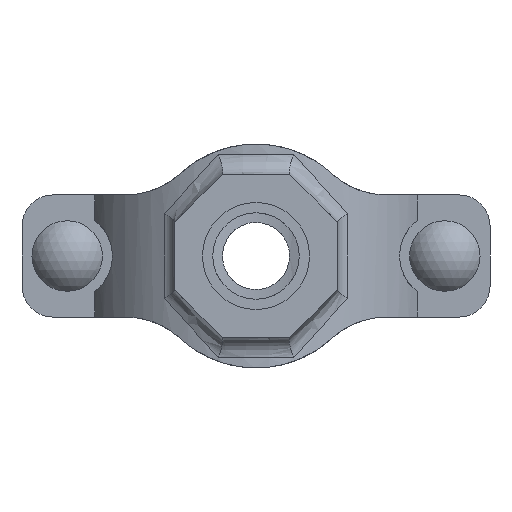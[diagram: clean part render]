
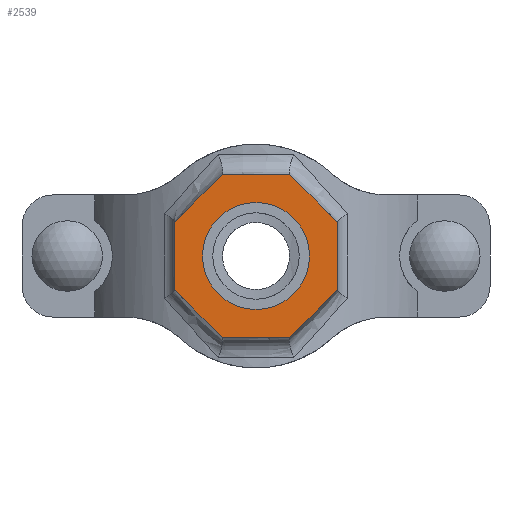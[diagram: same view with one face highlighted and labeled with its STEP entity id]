
A CAD part, front view. The second image highlights one B-rep face of the part: STEP entity #2539.
In plain terms, the highlighted planar face has unit normal (0, -1, 0) as drawn and (0, 1, 0) by its records, which use the part's own axes.
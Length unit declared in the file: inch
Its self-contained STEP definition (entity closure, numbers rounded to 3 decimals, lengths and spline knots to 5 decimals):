
#186=FACE_BOUND('',#459,.T.);
#307=FACE_OUTER_BOUND('',#458,.T.);
#458=EDGE_LOOP('',(#2138,#2139,#2140,#2141,#2142,#2143,#2144,#2145));
#459=EDGE_LOOP('',(#2146));
#594=LINE('',#4593,#780);
#597=LINE('',#4598,#783);
#599=LINE('',#4602,#785);
#601=LINE('',#4606,#787);
#641=LINE('',#5015,#827);
#643=LINE('',#5019,#829);
#645=LINE('',#5023,#831);
#647=LINE('',#5026,#833);
#780=VECTOR('',#3278,0.3937);
#783=VECTOR('',#3283,0.3937);
#785=VECTOR('',#3287,0.3937);
#787=VECTOR('',#3291,0.3937);
#827=VECTOR('',#3427,0.3937);
#829=VECTOR('',#3431,0.3937);
#831=VECTOR('',#3435,0.3937);
#833=VECTOR('',#3439,0.3937);
#919=CIRCLE('',#2802,0.6575);
#1097=VERTEX_POINT('',#4590);
#1098=VERTEX_POINT('',#4592);
#1099=VERTEX_POINT('',#4596);
#1100=VERTEX_POINT('',#4600);
#1101=VERTEX_POINT('',#4604);
#1136=VERTEX_POINT('',#4860);
#1160=VERTEX_POINT('',#5014);
#1161=VERTEX_POINT('',#5018);
#1162=VERTEX_POINT('',#5022);
#1408=EDGE_CURVE('',#1098,#1097,#594,.T.);
#1411=EDGE_CURVE('',#1097,#1099,#597,.T.);
#1413=EDGE_CURVE('',#1099,#1100,#599,.T.);
#1415=EDGE_CURVE('',#1100,#1101,#601,.T.);
#1461=EDGE_CURVE('',#1136,#1136,#919,.T.);
#1495=EDGE_CURVE('',#1160,#1098,#641,.T.);
#1497=EDGE_CURVE('',#1161,#1160,#643,.T.);
#1499=EDGE_CURVE('',#1162,#1161,#645,.T.);
#1501=EDGE_CURVE('',#1101,#1162,#647,.T.);
#2138=ORIENTED_EDGE('',*,*,#1501,.T.);
#2139=ORIENTED_EDGE('',*,*,#1499,.T.);
#2140=ORIENTED_EDGE('',*,*,#1497,.T.);
#2141=ORIENTED_EDGE('',*,*,#1495,.T.);
#2142=ORIENTED_EDGE('',*,*,#1408,.T.);
#2143=ORIENTED_EDGE('',*,*,#1411,.T.);
#2144=ORIENTED_EDGE('',*,*,#1413,.T.);
#2145=ORIENTED_EDGE('',*,*,#1415,.T.);
#2146=ORIENTED_EDGE('',*,*,#1461,.T.);
#2280=PLANE('',#2825);
#2539=ADVANCED_FACE('',(#307,#186),#2280,.T.);
#2802=AXIS2_PLACEMENT_3D('',#4861,#3369,#3370);
#2825=AXIS2_PLACEMENT_3D('',#5027,#3440,#3441);
#3278=DIRECTION('',(0.,0.,1.));
#3283=DIRECTION('',(0.707,0.,0.707));
#3287=DIRECTION('',(1.,0.,0.));
#3291=DIRECTION('',(0.707,0.,-0.707));
#3369=DIRECTION('center_axis',(0.,-1.,0.));
#3370=DIRECTION('ref_axis',(-1.,0.,0.));
#3427=DIRECTION('',(-0.707,0.,0.707));
#3431=DIRECTION('',(-1.,0.,0.));
#3435=DIRECTION('',(-0.707,0.,-0.707));
#3439=DIRECTION('',(0.,0.,-1.));
#3440=DIRECTION('center_axis',(0.,1.,0.));
#3441=DIRECTION('ref_axis',(0.,0.,1.));
#4590=CARTESIAN_POINT('',(-1.,3.06,0.41421));
#4592=CARTESIAN_POINT('',(-1.,3.06,-0.41421));
#4593=CARTESIAN_POINT('',(-1.,3.06,0.41421));
#4596=CARTESIAN_POINT('',(-0.41421,3.06,1.));
#4598=CARTESIAN_POINT('',(-0.41421,3.06,1.));
#4600=CARTESIAN_POINT('',(0.41421,3.06,1.));
#4602=CARTESIAN_POINT('',(0.41421,3.06,1.));
#4604=CARTESIAN_POINT('',(1.,3.06,0.41421));
#4606=CARTESIAN_POINT('',(1.,3.06,0.41421));
#4860=CARTESIAN_POINT('',(0.6575,3.06,0.));
#4861=CARTESIAN_POINT('Origin',(0.,3.06,0.));
#5014=CARTESIAN_POINT('',(-0.41421,3.06,-1.));
#5015=CARTESIAN_POINT('',(-1.,3.06,-0.41421));
#5018=CARTESIAN_POINT('',(0.41421,3.06,-1.));
#5019=CARTESIAN_POINT('',(-0.41421,3.06,-1.));
#5022=CARTESIAN_POINT('',(1.,3.06,-0.41421));
#5023=CARTESIAN_POINT('',(0.41421,3.06,-1.));
#5026=CARTESIAN_POINT('',(1.,3.06,-0.41421));
#5027=CARTESIAN_POINT('Origin',(0.,3.06,0.));
